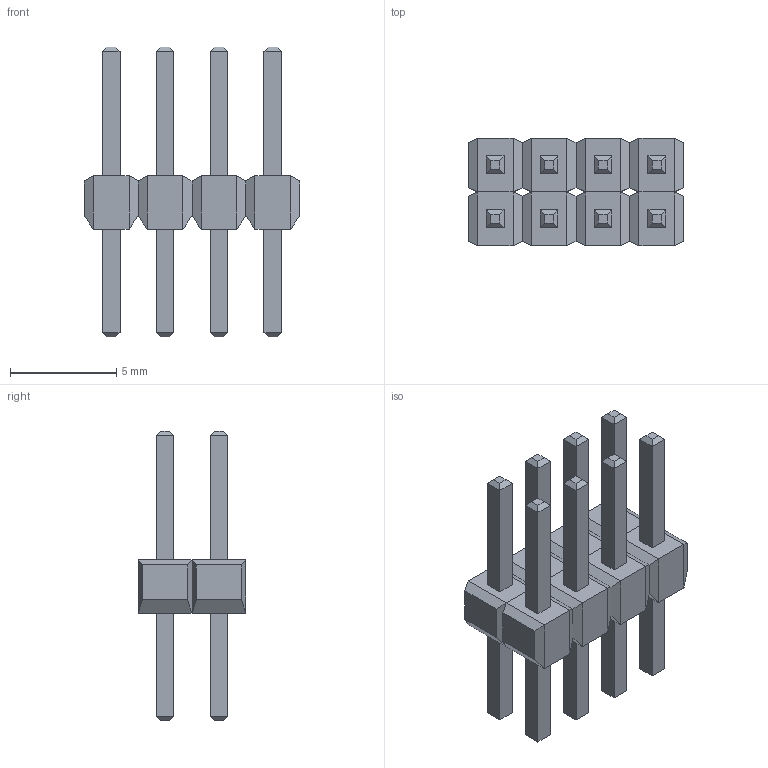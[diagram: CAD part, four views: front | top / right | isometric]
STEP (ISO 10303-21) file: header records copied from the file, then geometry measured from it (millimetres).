
FILE_DESCRIPTION(('STEP AP214'),'1');
FILE_NAME('CONN_10129381-X08002XLF_AMP','2026-01-19T02:36:51',(''),(''),'','','');
FILE_SCHEMA(('AUTOMOTIVE_DESIGN'));
Length unit declared in the file: millimetre
Products named in the file (1): product
Bounding box: 10.16 x 5.08 x 13.66 mm (x, y, z)
Volume: 181.6 mm3; surface area: 542.7 mm2
Topology: 18 solids, 18 shells, 260 faces, 520 edges, 296 vertices
Faces by surface type: plane 260
Entity records: 6262 total; most frequent: DIRECTION 1042, ORIENTED_EDGE 1040, CARTESIAN_POINT 557, EDGE_CURVE 520, LINE 520, VECTOR 520, VERTEX_POINT 296, AXIS2_PLACEMENT_3D 261
